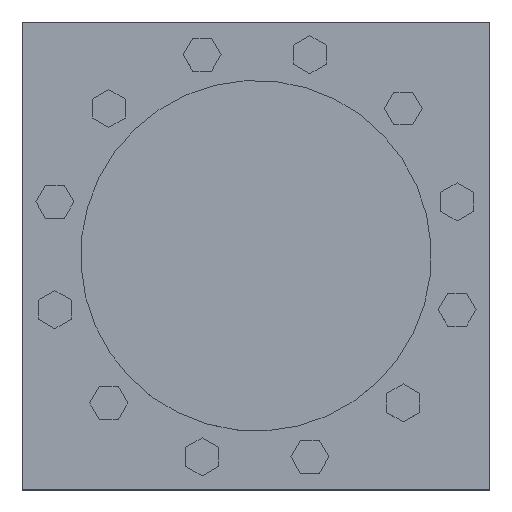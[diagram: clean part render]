
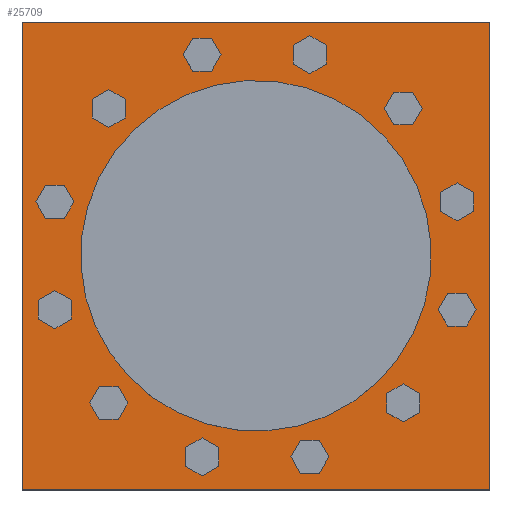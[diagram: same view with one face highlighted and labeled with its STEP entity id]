
A CAD part, top view. The second image highlights one B-rep face of the part: STEP entity #25709.
In plain terms, the highlighted planar face has unit normal (0, 0, 1).
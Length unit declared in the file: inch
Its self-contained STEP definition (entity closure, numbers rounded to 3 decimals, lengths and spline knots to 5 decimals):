
#1120=LINE('',#38839,#2254);
#1124=LINE('',#38846,#2258);
#1127=LINE('',#38852,#2261);
#1129=LINE('',#38855,#2263);
#2254=VECTOR('',#30977,16.);
#2258=VECTOR('',#30983,16.);
#2261=VECTOR('',#30988,16.);
#2263=VECTOR('',#30992,16.);
#3390=PLANE('',#27571);
#4103=FACE_BOUND('',#6718,.T.);
#4104=FACE_BOUND('',#6719,.T.);
#4105=FACE_BOUND('',#6720,.T.);
#4106=FACE_BOUND('',#6721,.T.);
#4107=FACE_BOUND('',#6722,.T.);
#4108=FACE_BOUND('',#6723,.T.);
#4109=FACE_BOUND('',#6724,.T.);
#4110=FACE_BOUND('',#6725,.T.);
#4111=FACE_BOUND('',#6726,.T.);
#4112=FACE_BOUND('',#6727,.T.);
#4113=FACE_BOUND('',#6728,.T.);
#4114=FACE_BOUND('',#6729,.T.);
#4950=FACE_OUTER_BOUND('',#6717,.T.);
#6717=EDGE_LOOP('',(#16596,#16597,#16598,#16599));
#6718=EDGE_LOOP('',(#16600));
#6719=EDGE_LOOP('',(#16601));
#6720=EDGE_LOOP('',(#16602));
#6721=EDGE_LOOP('',(#16603));
#6722=EDGE_LOOP('',(#16604));
#6723=EDGE_LOOP('',(#16605));
#6724=EDGE_LOOP('',(#16606));
#6725=EDGE_LOOP('',(#16607));
#6726=EDGE_LOOP('',(#16608));
#6727=EDGE_LOOP('',(#16609));
#6728=EDGE_LOOP('',(#16610));
#6729=EDGE_LOOP('',(#16611));
#9287=CIRCLE('',#27532,0.5);
#9289=CIRCLE('',#27535,0.5);
#9291=CIRCLE('',#27538,0.5);
#9293=CIRCLE('',#27541,0.5);
#9295=CIRCLE('',#27544,0.5);
#9297=CIRCLE('',#27547,0.5);
#9299=CIRCLE('',#27550,0.5);
#9301=CIRCLE('',#27553,0.5);
#9303=CIRCLE('',#27556,0.5);
#9305=CIRCLE('',#27559,0.5);
#9307=CIRCLE('',#27562,0.5);
#9309=CIRCLE('',#27565,0.5);
#10900=VERTEX_POINT('',#38773);
#10902=VERTEX_POINT('',#38778);
#10904=VERTEX_POINT('',#38783);
#10906=VERTEX_POINT('',#38788);
#10908=VERTEX_POINT('',#38793);
#10910=VERTEX_POINT('',#38798);
#10912=VERTEX_POINT('',#38803);
#10914=VERTEX_POINT('',#38808);
#10916=VERTEX_POINT('',#38813);
#10918=VERTEX_POINT('',#38818);
#10920=VERTEX_POINT('',#38823);
#10922=VERTEX_POINT('',#38828);
#10926=VERTEX_POINT('',#38836);
#10927=VERTEX_POINT('',#38838);
#10929=VERTEX_POINT('',#38844);
#10931=VERTEX_POINT('',#38850);
#13219=EDGE_CURVE('',#10900,#10900,#9287,.T.);
#13221=EDGE_CURVE('',#10902,#10902,#9289,.T.);
#13223=EDGE_CURVE('',#10904,#10904,#9291,.T.);
#13225=EDGE_CURVE('',#10906,#10906,#9293,.T.);
#13227=EDGE_CURVE('',#10908,#10908,#9295,.T.);
#13229=EDGE_CURVE('',#10910,#10910,#9297,.T.);
#13231=EDGE_CURVE('',#10912,#10912,#9299,.T.);
#13233=EDGE_CURVE('',#10914,#10914,#9301,.T.);
#13235=EDGE_CURVE('',#10916,#10916,#9303,.T.);
#13237=EDGE_CURVE('',#10918,#10918,#9305,.T.);
#13239=EDGE_CURVE('',#10920,#10920,#9307,.T.);
#13241=EDGE_CURVE('',#10922,#10922,#9309,.T.);
#13245=EDGE_CURVE('',#10926,#10927,#1120,.T.);
#13249=EDGE_CURVE('',#10929,#10926,#1124,.T.);
#13252=EDGE_CURVE('',#10931,#10929,#1127,.T.);
#13254=EDGE_CURVE('',#10927,#10931,#1129,.T.);
#16596=ORIENTED_EDGE('',*,*,#13254,.F.);
#16597=ORIENTED_EDGE('',*,*,#13245,.F.);
#16598=ORIENTED_EDGE('',*,*,#13249,.F.);
#16599=ORIENTED_EDGE('',*,*,#13252,.F.);
#16600=ORIENTED_EDGE('',*,*,#13219,.T.);
#16601=ORIENTED_EDGE('',*,*,#13221,.T.);
#16602=ORIENTED_EDGE('',*,*,#13223,.T.);
#16603=ORIENTED_EDGE('',*,*,#13225,.T.);
#16604=ORIENTED_EDGE('',*,*,#13227,.T.);
#16605=ORIENTED_EDGE('',*,*,#13229,.T.);
#16606=ORIENTED_EDGE('',*,*,#13231,.T.);
#16607=ORIENTED_EDGE('',*,*,#13233,.T.);
#16608=ORIENTED_EDGE('',*,*,#13235,.T.);
#16609=ORIENTED_EDGE('',*,*,#13237,.T.);
#16610=ORIENTED_EDGE('',*,*,#13239,.T.);
#16611=ORIENTED_EDGE('',*,*,#13241,.T.);
#25709=ADVANCED_FACE('',(#4950,#4103,#4104,#4105,#4106,#4107,#4108,#4109,
#4110,#4111,#4112,#4113,#4114),#3390,.F.);
#27532=AXIS2_PLACEMENT_3D('',#38774,#30903,#30904);
#27535=AXIS2_PLACEMENT_3D('',#38779,#30909,#30910);
#27538=AXIS2_PLACEMENT_3D('',#38784,#30915,#30916);
#27541=AXIS2_PLACEMENT_3D('',#38789,#30921,#30922);
#27544=AXIS2_PLACEMENT_3D('',#38794,#30927,#30928);
#27547=AXIS2_PLACEMENT_3D('',#38799,#30933,#30934);
#27550=AXIS2_PLACEMENT_3D('',#38804,#30939,#30940);
#27553=AXIS2_PLACEMENT_3D('',#38809,#30945,#30946);
#27556=AXIS2_PLACEMENT_3D('',#38814,#30951,#30952);
#27559=AXIS2_PLACEMENT_3D('',#38819,#30957,#30958);
#27562=AXIS2_PLACEMENT_3D('',#38824,#30963,#30964);
#27565=AXIS2_PLACEMENT_3D('',#38829,#30969,#30970);
#27571=AXIS2_PLACEMENT_3D('',#38856,#30993,#30994);
#30903=DIRECTION('center_axis',(0.,0.,
-1.));
#30904=DIRECTION('ref_axis',(0.866,0.5,0.));
#30909=DIRECTION('center_axis',(0.,0.,
-1.));
#30910=DIRECTION('ref_axis',(0.5,0.866,0.));
#30915=DIRECTION('center_axis',(0.,0.,
-1.));
#30916=DIRECTION('ref_axis',(0.,1.,0.));
#30921=DIRECTION('center_axis',(0.,0.,
-1.));
#30922=DIRECTION('ref_axis',(-0.5,0.866,0.));
#30927=DIRECTION('center_axis',(0.,0.,
-1.));
#30928=DIRECTION('ref_axis',(-0.866,0.5,0.));
#30933=DIRECTION('center_axis',(0.,0.,
-1.));
#30934=DIRECTION('ref_axis',(-1.,0.,0.));
#30939=DIRECTION('center_axis',(0.,0.,
-1.));
#30940=DIRECTION('ref_axis',(-0.866,-0.5,0.));
#30945=DIRECTION('center_axis',(0.,0.,
-1.));
#30946=DIRECTION('ref_axis',(-0.5,-0.866,0.));
#30951=DIRECTION('center_axis',(0.,0.,
-1.));
#30952=DIRECTION('ref_axis',(0.,-1.,0.));
#30957=DIRECTION('center_axis',(0.,0.,
-1.));
#30958=DIRECTION('ref_axis',(0.5,-0.866,0.));
#30963=DIRECTION('center_axis',(0.,0.,
-1.));
#30964=DIRECTION('ref_axis',(0.866,-0.5,0.));
#30969=DIRECTION('center_axis',(0.,0.,
-1.));
#30970=DIRECTION('ref_axis',(1.,0.,0.));
#30977=DIRECTION('',(0.,1.,0.));
#30983=DIRECTION('',(-1.,0.,0.));
#30988=DIRECTION('',(0.,-1.,0.));
#30992=DIRECTION('',(1.,0.,0.));
#30993=DIRECTION('center_axis',(0.,0.,
-1.));
#30994=DIRECTION('ref_axis',(1.,0.,0.));
#38773=CARTESIAN_POINT('',(4.60512,-5.28814,9.5));
#38774=CARTESIAN_POINT('Origin',(5.03814,-5.03814,9.5));
#38778=CARTESIAN_POINT('',(6.63222,-2.2771,9.5));
#38779=CARTESIAN_POINT('Origin',(6.88222,-1.84409,9.5));
#38783=CARTESIAN_POINT('',(6.88222,1.34409,9.5));
#38784=CARTESIAN_POINT('Origin',(6.88222,1.84409,9.5));
#38788=CARTESIAN_POINT('',(5.28814,4.60512,9.5));
#38789=CARTESIAN_POINT('Origin',(5.03814,5.03814,9.5));
#38793=CARTESIAN_POINT('',(2.2771,6.63222,9.5));
#38794=CARTESIAN_POINT('Origin',(1.84409,6.88222,9.5));
#38798=CARTESIAN_POINT('',(-1.34409,6.88222,9.5));
#38799=CARTESIAN_POINT('Origin',(-1.84409,6.88222,9.5));
#38803=CARTESIAN_POINT('',(-4.60512,5.28814,9.5));
#38804=CARTESIAN_POINT('Origin',(-5.03814,5.03814,9.5));
#38808=CARTESIAN_POINT('',(-6.63222,2.2771,9.5));
#38809=CARTESIAN_POINT('Origin',(-6.88222,1.84409,9.5));
#38813=CARTESIAN_POINT('',(-6.88222,-1.34409,9.5));
#38814=CARTESIAN_POINT('Origin',(-6.88222,-1.84409,9.5));
#38818=CARTESIAN_POINT('',(-5.28814,-4.60512,9.5));
#38819=CARTESIAN_POINT('Origin',(-5.03814,-5.03814,9.5));
#38823=CARTESIAN_POINT('',(-2.2771,-6.63222,9.5));
#38824=CARTESIAN_POINT('Origin',(-1.84409,-6.88222,9.5));
#38828=CARTESIAN_POINT('',(1.34409,-6.88222,9.5));
#38829=CARTESIAN_POINT('Origin',(1.84409,-6.88222,9.5));
#38836=CARTESIAN_POINT('',(-8.,-8.,9.5));
#38838=CARTESIAN_POINT('',(-8.,8.,9.5));
#38839=CARTESIAN_POINT('',(-8.,-8.,9.5));
#38844=CARTESIAN_POINT('',(8.,-8.,9.5));
#38846=CARTESIAN_POINT('',(8.,-8.,9.5));
#38850=CARTESIAN_POINT('',(8.,8.,9.5));
#38852=CARTESIAN_POINT('',(8.,8.,9.5));
#38855=CARTESIAN_POINT('',(-8.,8.,9.5));
#38856=CARTESIAN_POINT('Origin',(0.,0.,
9.5));
